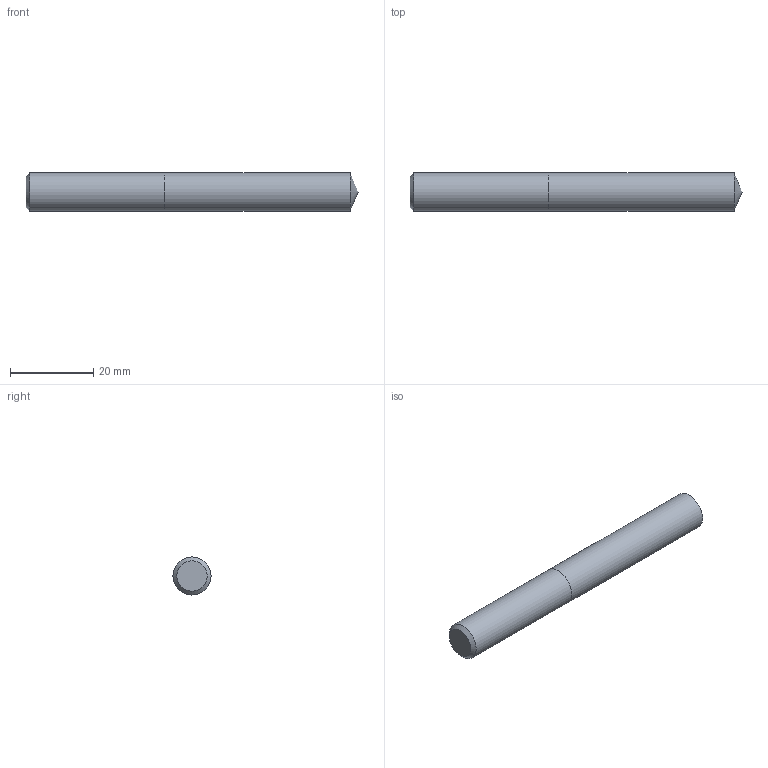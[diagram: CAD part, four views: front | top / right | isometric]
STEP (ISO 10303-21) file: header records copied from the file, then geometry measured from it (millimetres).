
FILE_DESCRIPTION (( 'STEP AP214' ), '1' );
FILE_NAME ('03-2422.STEP', '2022-06-03T07:33:53', ( 'USER' ), ( '' ), 'SwSTEP 2.0', 'SolidWorks 2018', '' );
FILE_SCHEMA (( 'AUTOMOTIVE_DESIGN' ));
Length unit declared in the file: inch
Products named in the file (1): 03-2422
Bounding box: 79.68 x 9.13 x 9.13 mm (x, y, z)
Volume: 5120.6 mm3; surface area: 2481.4 mm2
Topology: 2 solids, 2 shells, 7 faces, 11 edges, 7 vertices
Faces by surface type: plane 3, cylinder 2, cone 2
Full cylindrical faces by diameter (mm): 9.128 x2
Entity records: 214 total; most frequent: DIRECTION 26, CARTESIAN_POINT 18, AXIS2_PLACEMENT_3D 13, ORIENTED_EDGE 10, EDGE_LOOP 10, FACE_OUTER_BOUND 9, DIMENSIONAL_EXPONENTS 7, ADVANCED_FACE 7
